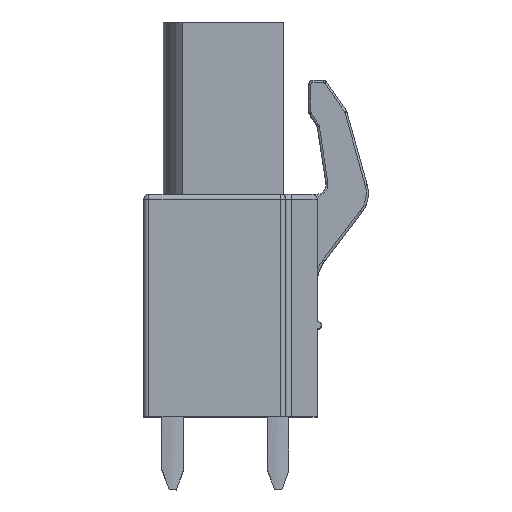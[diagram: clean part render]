
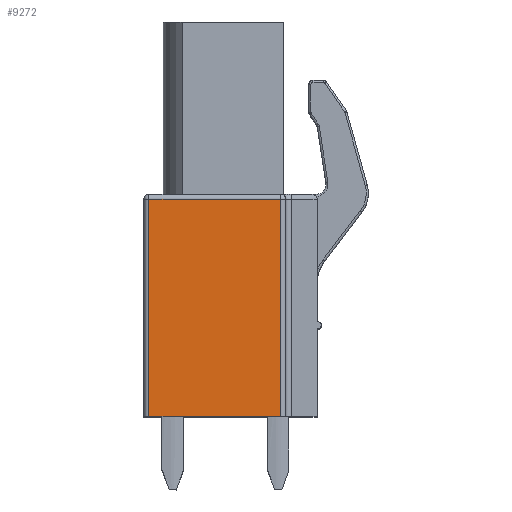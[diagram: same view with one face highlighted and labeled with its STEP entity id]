
A CAD part, top view. The second image highlights one B-rep face of the part: STEP entity #9272.
In plain terms, the highlighted planar face has unit normal (0, 0, 1).
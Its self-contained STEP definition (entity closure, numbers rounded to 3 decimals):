
#766=DIRECTION('',(1.,0.,0.));
#767=VECTOR('',#766,6.35);
#768=CARTESIAN_POINT('',(0.25,3.5,-0.073));
#769=LINE('',#768,#767);
#2122=DIRECTION('',(-1.,0.,0.));
#2123=VECTOR('',#2122,6.35);
#2124=CARTESIAN_POINT('',(6.6,13.95,-0.073));
#2125=LINE('',#2124,#2123);
#2134=DIRECTION('',(0.,-1.,0.));
#2135=VECTOR('',#2134,10.45);
#2136=CARTESIAN_POINT('',(0.25,13.95,-0.073));
#2137=LINE('',#2136,#2135);
#2138=DIRECTION('',(0.,1.,0.));
#2139=VECTOR('',#2138,10.45);
#2140=CARTESIAN_POINT('',(6.6,3.5,-0.073));
#2141=LINE('',#2140,#2139);
#6021=CARTESIAN_POINT('',(0.25,3.5,-0.073));
#6022=VERTEX_POINT('',#6021);
#6023=CARTESIAN_POINT('',(6.6,3.5,-0.073));
#6024=VERTEX_POINT('',#6023);
#6211=CARTESIAN_POINT('',(0.25,13.95,-0.073));
#6212=VERTEX_POINT('',#6211);
#6213=CARTESIAN_POINT('',(6.6,13.95,-0.073));
#6214=VERTEX_POINT('',#6213);
#9259=CARTESIAN_POINT('',(4.175,13.,-0.073));
#9260=DIRECTION('',(0.,0.,1.));
#9261=DIRECTION('',(1.,0.,0.));
#9262=AXIS2_PLACEMENT_3D('',#9259,#9260,#9261);
#9263=PLANE('',#9262);
#9265=ORIENTED_EDGE('',*,*,#9264,.F.);
#9266=ORIENTED_EDGE('',*,*,#9250,.F.);
#9268=ORIENTED_EDGE('',*,*,#9267,.F.);
#9269=ORIENTED_EDGE('',*,*,#7480,.F.);
#9270=EDGE_LOOP('',(#9265,#9266,#9268,#9269));
#9271=FACE_OUTER_BOUND('',#9270,.F.);
#9272=ADVANCED_FACE('',(#9271),#9263,.T.);
#7480=EDGE_CURVE('',#6022,#6024,#769,.T.);
#9250=EDGE_CURVE('',#6214,#6212,#2125,.T.);
#9264=EDGE_CURVE('',#6212,#6022,#2137,.T.);
#9267=EDGE_CURVE('',#6024,#6214,#2141,.T.);
